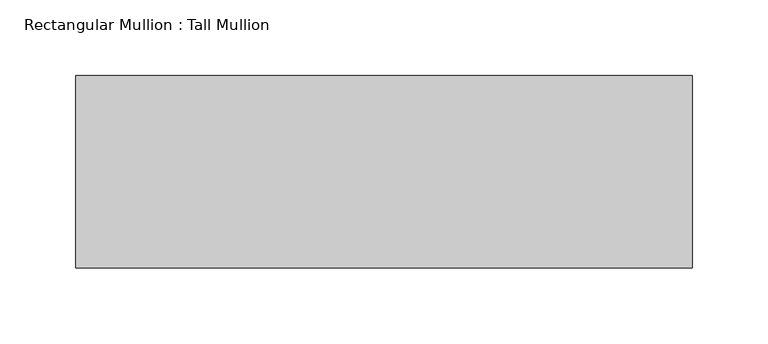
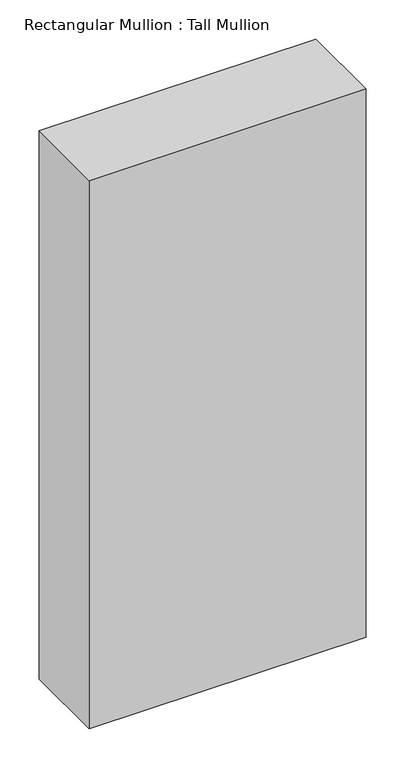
"""IFC4 building model written with IfcOpenShell, lengths in millimetres: member geometry, Rectangular Mullion : Tall Mullion."""

from ifc_helpers import new_model, si_unit, frame, origin, place, context, project, spatial, polyline, outline, extrude, source, transform, mapped, element, save


def rectangular_mullion_tall_mullion_dc5872ae(model_context):
    return source(origin(), model_context, "Body", "SweptSolid", [
        extrude(outline(polyline([(0.0, 63.5), (0.0, -63.5), (-406.4, -63.5), (-406.4, 63.5), (0.0, 63.5)])), frame((0.0, 0.0, -850.9), z_axis=(0.0, 0.0, 1.0), x_axis=(1.0, 0.0, 0.0)), (0.0, 0.0, 1.0), 850.9),
    ])


if __name__ == "__main__":
    model = new_model("IFC4")
    model_context = context("Model", 3, world=origin())
    ifc_project = project(units=[si_unit("LENGTHUNIT", "METRE", prefix="MILLI")], contexts=[model_context])
    site = spatial("IfcSite", under=ifc_project)
    building = spatial("IfcBuilding", under=site)
    placement = place(None, origin())
    rectangular_mullion_tall_mullion_shape = rectangular_mullion_tall_mullion_dc5872ae(model_context)
    element("IfcMember", 1, ObjectType="Rectangular Mullion : Tall Mullion", at=placement, inside=building, context=model_context, shape_type="MappedRepresentation", body=[
        mapped(rectangular_mullion_tall_mullion_shape, transform((0.0, 0.0, 0.0), x_axis=(1.0, 0.0, 0.0), y_axis=(0.0, 1.0, 0.0), z_axis=(0.0, 0.0, 1.0))),
    ])
    save(model, "model.ifc")
